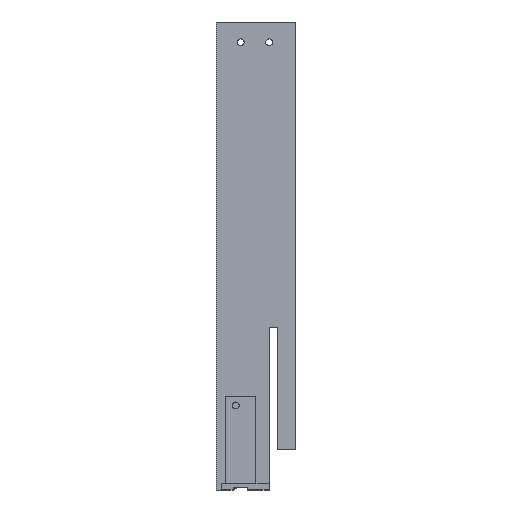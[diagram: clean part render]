
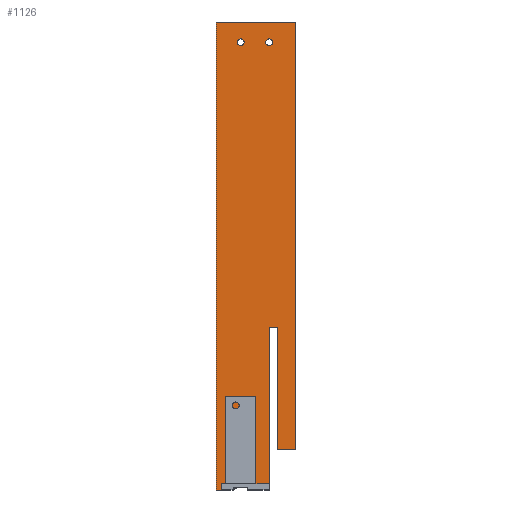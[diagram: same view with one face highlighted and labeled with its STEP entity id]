
A CAD part, top view. The second image highlights one B-rep face of the part: STEP entity #1126.
In plain terms, the highlighted planar face has unit normal (0, 0, 1).
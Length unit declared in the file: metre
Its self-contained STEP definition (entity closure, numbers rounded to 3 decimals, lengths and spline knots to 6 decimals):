
#28=CIRCLE('',#1207,0.0017);
#29=CIRCLE('',#1208,0.0017);
#141=ORIENTED_EDGE('',*,*,#447,.F.);
#142=ORIENTED_EDGE('',*,*,#448,.F.);
#143=ORIENTED_EDGE('',*,*,#449,.T.);
#144=ORIENTED_EDGE('',*,*,#440,.T.);
#145=ORIENTED_EDGE('',*,*,#450,.T.);
#146=ORIENTED_EDGE('',*,*,#451,.T.);
#147=ORIENTED_EDGE('',*,*,#452,.F.);
#148=ORIENTED_EDGE('',*,*,#453,.T.);
#149=ORIENTED_EDGE('',*,*,#454,.F.);
#150=ORIENTED_EDGE('',*,*,#401,.F.);
#151=ORIENTED_EDGE('',*,*,#455,.T.);
#152=ORIENTED_EDGE('',*,*,#356,.F.);
#356=EDGE_CURVE('',#514,#515,#618,.T.);
#401=EDGE_CURVE('',#552,#553,#662,.T.);
#440=EDGE_CURVE('',#586,#587,#698,.T.);
#447=EDGE_CURVE('',#592,#592,#28,.T.);
#448=EDGE_CURVE('',#593,#593,#29,.T.);
#449=EDGE_CURVE('',#514,#586,#705,.T.);
#450=EDGE_CURVE('',#587,#594,#706,.T.);
#451=EDGE_CURVE('',#594,#595,#707,.T.);
#452=EDGE_CURVE('',#596,#595,#708,.T.);
#453=EDGE_CURVE('',#596,#597,#709,.T.);
#454=EDGE_CURVE('',#553,#597,#710,.T.);
#455=EDGE_CURVE('',#552,#515,#711,.T.);
#514=VERTEX_POINT('',#1563);
#515=VERTEX_POINT('',#1565);
#552=VERTEX_POINT('',#1653);
#553=VERTEX_POINT('',#1655);
#586=VERTEX_POINT('',#1735);
#587=VERTEX_POINT('',#1736);
#592=VERTEX_POINT('',#1749);
#593=VERTEX_POINT('',#1751);
#594=VERTEX_POINT('',#1754);
#595=VERTEX_POINT('',#1756);
#596=VERTEX_POINT('',#1758);
#597=VERTEX_POINT('',#1760);
#618=LINE('',#1564,#757);
#662=LINE('',#1654,#801);
#698=LINE('',#1734,#837);
#705=LINE('',#1752,#844);
#706=LINE('',#1753,#845);
#707=LINE('',#1755,#846);
#708=LINE('',#1757,#847);
#709=LINE('',#1759,#848);
#710=LINE('',#1761,#849);
#711=LINE('',#1762,#850);
#757=VECTOR('',#1269,1.);
#801=VECTOR('',#1329,1.);
#837=VECTOR('',#1387,1.);
#844=VECTOR('',#1400,1.);
#845=VECTOR('',#1401,1.);
#846=VECTOR('',#1402,1.);
#847=VECTOR('',#1403,1.);
#848=VECTOR('',#1404,1.);
#849=VECTOR('',#1405,1.);
#850=VECTOR('',#1406,1.);
#912=EDGE_LOOP('',(#141));
#913=EDGE_LOOP('',(#142));
#914=EDGE_LOOP('',(#143,#144,#145,#146,#147,#148,#149,#150,#151,#152));
#992=FACE_BOUND('',#912,.T.);
#993=FACE_BOUND('',#913,.T.);
#994=FACE_BOUND('',#914,.T.);
#1069=PLANE('',#1206);
#1126=ADVANCED_FACE('',(#992,#993,#994),#1069,.T.);
#1206=AXIS2_PLACEMENT_3D('',#1747,#1394,#1395);
#1207=AXIS2_PLACEMENT_3D('',#1748,#1396,#1397);
#1208=AXIS2_PLACEMENT_3D('',#1750,#1398,#1399);
#1269=DIRECTION('',(-1.,0.,0.));
#1329=DIRECTION('',(1.,0.,0.));
#1387=DIRECTION('',(1.,0.,0.));
#1394=DIRECTION('',(0.,0.,1.));
#1395=DIRECTION('',(1.,0.,0.));
#1396=DIRECTION('',(0.,0.,1.));
#1397=DIRECTION('',(1.,0.,0.));
#1398=DIRECTION('',(0.,0.,1.));
#1399=DIRECTION('',(1.,0.,0.));
#1400=DIRECTION('',(0.,1.,0.));
#1401=DIRECTION('',(0.,1.,0.));
#1402=DIRECTION('',(1.,0.,0.));
#1403=DIRECTION('',(0.,1.,0.));
#1404=DIRECTION('',(1.,0.,0.));
#1405=DIRECTION('',(0.,-1.,0.));
#1406=DIRECTION('',(0.,-1.,0.));
#1563=CARTESIAN_POINT('',(0.147983,-0.208653,0.003));
#1564=CARTESIAN_POINT('',(0.158483,-0.208653,0.003));
#1565=CARTESIAN_POINT('',(0.145483,-0.208653,0.003));
#1653=CARTESIAN_POINT('',(0.145483,0.021347,0.003));
#1654=CARTESIAN_POINT('',(0.164983,0.021347,0.003));
#1655=CARTESIAN_POINT('',(0.184483,0.021347,0.003));
#1734=CARTESIAN_POINT('',(0.159733,-0.205653,0.003));
#1735=CARTESIAN_POINT('',(0.147983,-0.205653,0.003));
#1736=CARTESIAN_POINT('',(0.171483,-0.205653,0.003));
#1747=CARTESIAN_POINT('',(0.164983,-0.093653,0.003));
#1748=CARTESIAN_POINT('',(0.157483,0.011347,0.003));
#1749=CARTESIAN_POINT('',(0.159183,0.011347,0.003));
#1750=CARTESIAN_POINT('',(0.171483,0.011347,0.003));
#1751=CARTESIAN_POINT('',(0.173183,0.011347,0.003));
#1752=CARTESIAN_POINT('',(0.147983,-0.207153,0.003));
#1753=CARTESIAN_POINT('',(0.171483,-0.158653,0.003));
#1754=CARTESIAN_POINT('',(0.171483,-0.128653,0.003));
#1755=CARTESIAN_POINT('',(0.173483,-0.128653,0.003));
#1756=CARTESIAN_POINT('',(0.175483,-0.128653,0.003));
#1757=CARTESIAN_POINT('',(0.175483,-0.158653,0.003));
#1758=CARTESIAN_POINT('',(0.175483,-0.188653,0.003));
#1759=CARTESIAN_POINT('',(0.179983,-0.188653,0.003));
#1760=CARTESIAN_POINT('',(0.184483,-0.188653,0.003));
#1761=CARTESIAN_POINT('',(0.184483,-0.083653,0.003));
#1762=CARTESIAN_POINT('',(0.145483,-0.083653,0.003));
